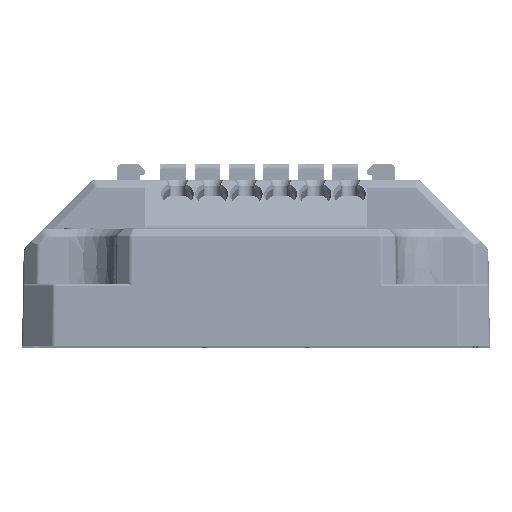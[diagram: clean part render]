
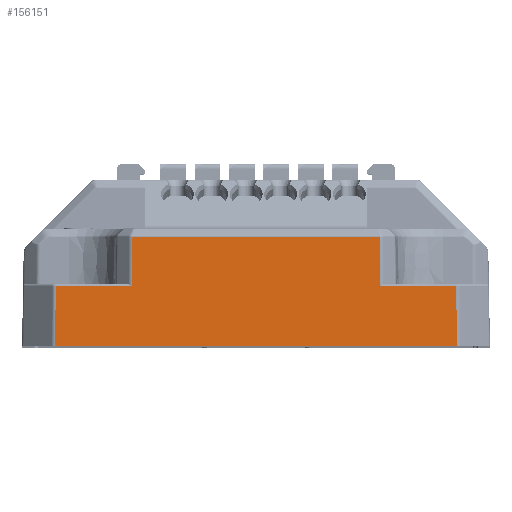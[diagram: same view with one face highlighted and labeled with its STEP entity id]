
A CAD part, top view. The second image highlights one B-rep face of the part: STEP entity #156151.
In plain terms, the highlighted planar face has unit normal (0, 0.018, 1).
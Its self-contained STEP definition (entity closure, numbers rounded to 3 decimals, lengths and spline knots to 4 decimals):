
#11705=PLANE('',#167519);
#17527=FACE_OUTER_BOUND('',#26339,.T.);
#26339=EDGE_LOOP('',(#126901,#126902,#126903,#126904,#126905,#126906,#126907,
#126908));
#40417=LINE('',#236490,#55958);
#40418=LINE('',#236492,#55959);
#40419=LINE('',#236494,#55960);
#40420=LINE('',#236496,#55961);
#40421=LINE('',#236498,#55962);
#40422=LINE('',#236499,#55963);
#40423=LINE('',#236501,#55964);
#40424=LINE('',#236502,#55965);
#55958=VECTOR('',#195082,39.3701);
#55959=VECTOR('',#195083,39.3701);
#55960=VECTOR('',#195084,39.3701);
#55961=VECTOR('',#195085,39.3701);
#55962=VECTOR('',#195086,39.3701);
#55963=VECTOR('',#195087,39.3701);
#55964=VECTOR('',#195088,39.3701);
#55965=VECTOR('',#195089,39.3701);
#71941=VERTEX_POINT('',#232428);
#73268=VERTEX_POINT('',#236488);
#73269=VERTEX_POINT('',#236489);
#73270=VERTEX_POINT('',#236491);
#73271=VERTEX_POINT('',#236493);
#73272=VERTEX_POINT('',#236495);
#73273=VERTEX_POINT('',#236497);
#73274=VERTEX_POINT('',#236500);
#92637=EDGE_CURVE('',#73268,#73269,#40417,.T.);
#92638=EDGE_CURVE('',#73269,#73270,#40418,.T.);
#92639=EDGE_CURVE('',#73270,#73271,#40419,.T.);
#92640=EDGE_CURVE('',#73271,#73272,#40420,.T.);
#92641=EDGE_CURVE('',#73272,#73273,#40421,.T.);
#92642=EDGE_CURVE('',#73273,#71941,#40422,.T.);
#92643=EDGE_CURVE('',#71941,#73274,#40423,.T.);
#92644=EDGE_CURVE('',#73268,#73274,#40424,.T.);
#126901=ORIENTED_EDGE('',*,*,#92637,.T.);
#126902=ORIENTED_EDGE('',*,*,#92638,.T.);
#126903=ORIENTED_EDGE('',*,*,#92639,.T.);
#126904=ORIENTED_EDGE('',*,*,#92640,.T.);
#126905=ORIENTED_EDGE('',*,*,#92641,.T.);
#126906=ORIENTED_EDGE('',*,*,#92642,.T.);
#126907=ORIENTED_EDGE('',*,*,#92643,.T.);
#126908=ORIENTED_EDGE('',*,*,#92644,.F.);
#156151=ADVANCED_FACE('',(#17527),#11705,.T.);
#167519=AXIS2_PLACEMENT_3D('',#236487,#195080,#195081);
#195080=DIRECTION('center_axis',(0.,0.017,1.));
#195081=DIRECTION('ref_axis',(0.,1.,-0.017));
#195082=DIRECTION('',(-0.007,1.,-0.017));
#195083=DIRECTION('',(-1.,0.,0.));
#195084=DIRECTION('',(-0.007,1.,-0.017));
#195085=DIRECTION('',(-1.,0.,0.));
#195086=DIRECTION('',(-0.007,-1.,0.017));
#195087=DIRECTION('',(-1.,0.,0.));
#195088=DIRECTION('',(-0.007,-1.,0.017));
#195089=DIRECTION('',(-1.,0.,0.));
#232428=CARTESIAN_POINT('',(-0.8026,0.2403,2.1833));
#236487=CARTESIAN_POINT('Origin',(0.8125,0.,2.1875));
#236488=CARTESIAN_POINT('',(0.8043,0.,2.1875));
#236489=CARTESIAN_POINT('',(0.8026,0.2403,2.1833));
#236490=CARTESIAN_POINT('',(0.8043,-0.0001,2.1875));
#236491=CARTESIAN_POINT('',(0.4963,0.2403,2.1833));
#236492=CARTESIAN_POINT('',(0.4962,0.2403,2.1833));
#236493=CARTESIAN_POINT('',(0.4948,0.4388,2.1798));
#236494=CARTESIAN_POINT('',(0.498,-0.0023,2.1875));
#236495=CARTESIAN_POINT('',(-0.4948,0.4388,2.1798));
#236496=CARTESIAN_POINT('',(0.8125,0.4388,2.1798));
#236497=CARTESIAN_POINT('',(-0.4963,0.2403,2.1833));
#236498=CARTESIAN_POINT('',(-0.498,0.0095,2.1873));
#236499=CARTESIAN_POINT('',(-0.8025,0.2403,2.1833));
#236500=CARTESIAN_POINT('',(-0.8043,0.,2.1875));
#236501=CARTESIAN_POINT('',(-0.8043,0.0117,2.1873));
#236502=CARTESIAN_POINT('',(0.8125,0.,2.1875));
